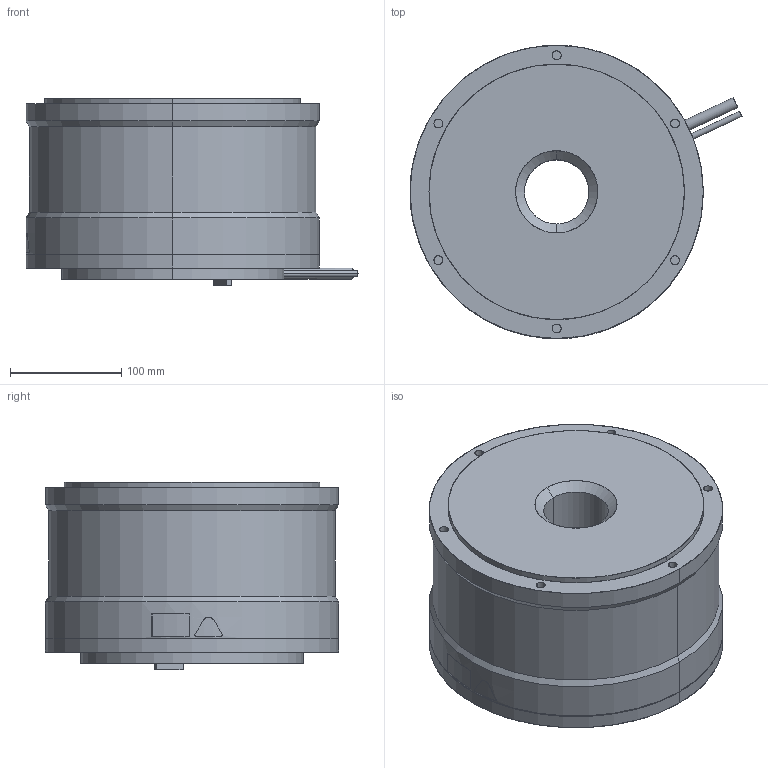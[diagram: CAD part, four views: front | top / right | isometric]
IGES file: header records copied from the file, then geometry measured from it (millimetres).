
Start section: SolidWorks IGES file using analytic representation for surfaces
Bounding box: 298.93 x 264 x 169 mm (x, y, z)
Surface area: 280931.5 mm2 (no closed solid volume)
Topology: 0 solids, 0 shells, 203 faces, 4730 edges, 4730 vertices
Faces by surface type: revolution 128, bspline 75
